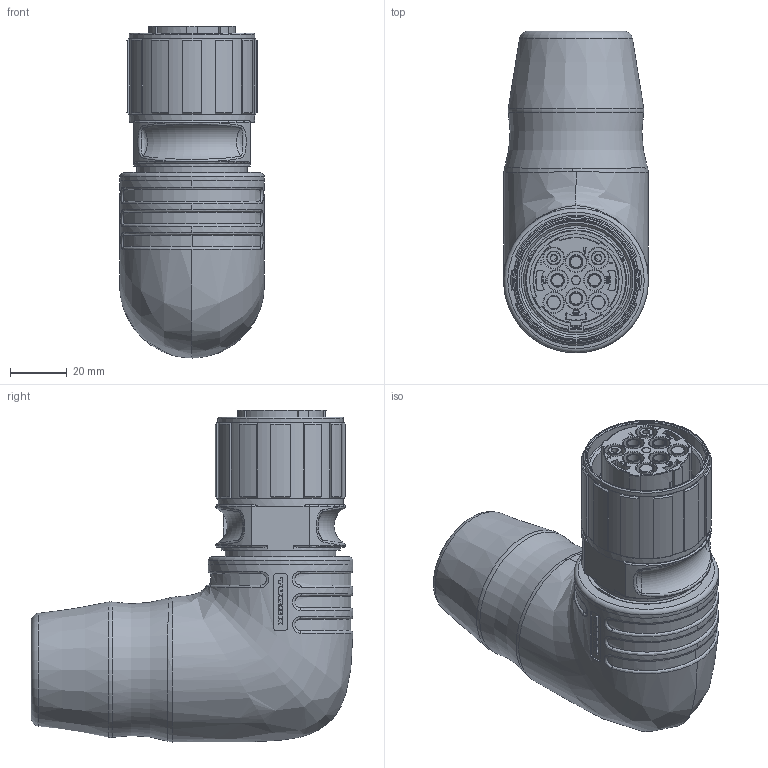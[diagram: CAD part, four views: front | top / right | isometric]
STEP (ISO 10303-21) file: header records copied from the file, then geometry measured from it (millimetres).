
FILE_DESCRIPTION(/* description */ ('PART (MM)'),/* implementation_level */ '2;1');
FILE_NAME(/* name */ 'L:\CAD Inventor\Workspace\Catalogs\CATALOG-TURCK CONNECTORS\HKWM 4024.stp',/* time_stamp */ '2022-02-02T06:56:02-06:00',/* author */ ('RSwans'),/* organization */ (''),/* preprocessor_version */ 'ST-DEVELOPER v16.5',/* originating_system */ 'Autodesk Inventor 2017',/* authorisation */ '');
FILE_SCHEMA (('AUTOMOTIVE_DESIGN { 1 0 10303 214 3 1 1 }'));
Length unit declared in the file: millimetre
Products named in the file (1): Part7
Bounding box: 51 x 113.5 x 117.1 mm (x, y, z)
Volume: 299161 mm3; surface area: 47505.2 mm2
Topology: 1 solids, 7 shells, 742 faces, 1964 edges, 1288 vertices
Faces by surface type: plane 430, cylinder 129, bspline 76, cone 64, torus 43
Full cylindrical faces by diameter (mm): 1.8 x1, 2.2 x1, 2.3 x2, 4 x4, 4.9 x8, 7.2 x8, 36.8 x1, 38.2 x2, 38.6 x1, 39 x1, 41 x1, 41.6 x1, 42 x1, 44.2 x2, 51 x1
Entity records: 44146 total; most frequent: CARTESIAN_POINT 25733, ORIENTED_EDGE 3736, DIRECTION 3482, EDGE_CURVE 1868, AXIS2_PLACEMENT_3D 1298, VERTEX_POINT 1266, LINE 886, VECTOR 886
